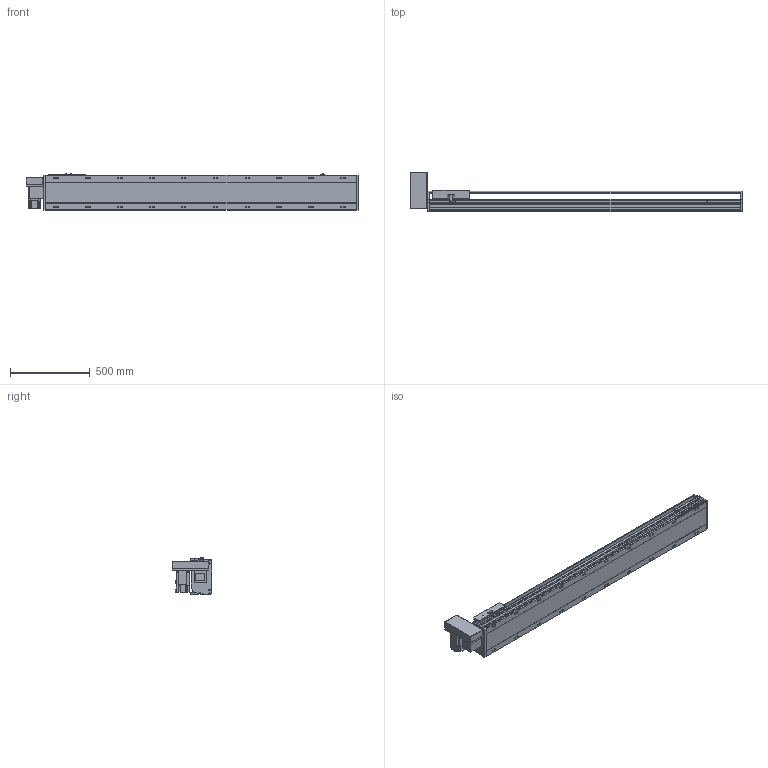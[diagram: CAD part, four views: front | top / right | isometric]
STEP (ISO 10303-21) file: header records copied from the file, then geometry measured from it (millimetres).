
FILE_DESCRIPTION(/* description */ ('STEP AP214'),/* implementation_level */ '2;1');
FILE_NAME(/* name */ 'PBS220-P40-S1600-RU-T75-C1-N(0)',/* time_stamp */ '2022-06-13T02:55:09+02:00',/* author */ ('License CC BY-ND 4.0'),/* organization */ ('CADENAS'),/* preprocessor_version */ 'ST-DEVELOPER v18.102',/* originating_system */ 'PARTsolutions',/* authorisation */ ' ');
FILE_SCHEMA (('AUTOMOTIVE_DESIGN {1 0 10303 214 3 1 1}'));
Length unit declared in the file: millimetre
Products named in the file (7): PBS220-P40-S1600-RU-T75-C1-N(0); PBS220_sensor; PBS220_plant; PBS220_sliser; T75-p1; PBS220T-RU_motors; PBS220-S1600()_body
Assembly tree (8 placements, depth 2):
  PBS220-P40-S1600-RU-T75-C1-N(0)
    PBS220_sensor  x3
    PBS220_plant
    PBS220_sliser
    T75-p1
    PBS220T-RU_motors
    PBS220-S1600()_body
Bounding box: 2084 x 247 x 238.5 mm (x, y, z)
Volume: 29542454.4 mm3; surface area: 2786476.7 mm2
Topology: 8 solids, 8 shells, 938 faces, 2452 edges, 1594 vertices
Faces by surface type: plane 606, cylinder 288, cone 44
Full cylindrical faces by diameter (mm): 2.013 x4, 4.5 x14, 4.917 x4, 6 x7, 6.647 x8, 8 x10, 8.376 x20, 8.5 x20, 10 x6, 14 x20, 38 x2, 40 x1, 70 x1
Entity records: 26253 total; most frequent: CARTESIAN_POINT 4624, DIRECTION 4563, ORIENTED_EDGE 4178, EDGE_CURVE 2089, AXIS2_PLACEMENT_3D 1607, VERTEX_POINT 1448, LINE 1349, VECTOR 1349
